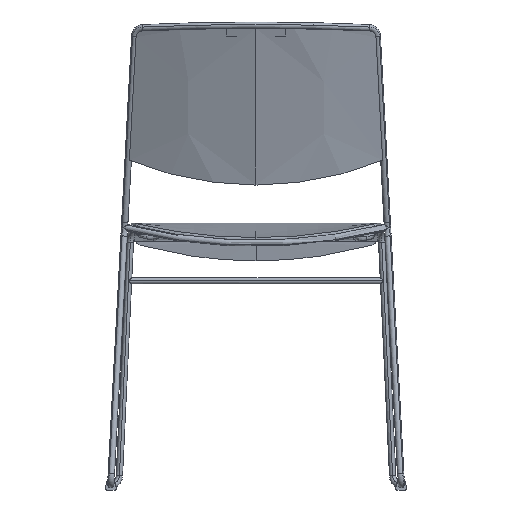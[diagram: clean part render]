
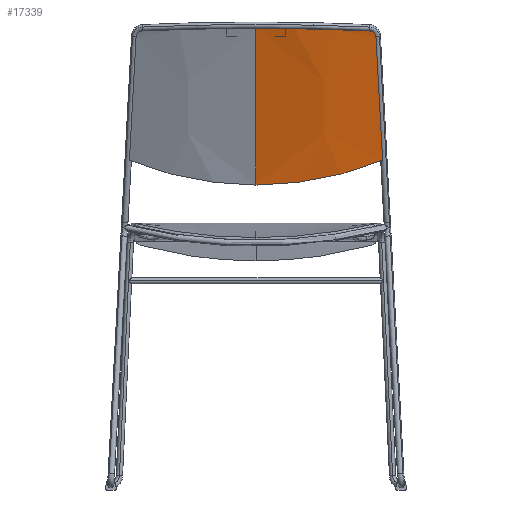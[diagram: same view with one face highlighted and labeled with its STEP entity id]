
A CAD part, left-side view. The second image highlights one B-rep face of the part: STEP entity #17339.
In plain terms, the highlighted free-form (B-spline) face has degree [3, 3] with [5, 4] control points.
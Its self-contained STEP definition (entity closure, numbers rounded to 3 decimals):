
#16070=CARTESIAN_POINT('',(-322.511,0.,
783.374));
#16071=CARTESIAN_POINT('',(-322.511,-33.006,
783.374));
#16072=CARTESIAN_POINT('',(-317.74,-99.016,
782.65));
#16073=CARTESIAN_POINT('',(-303.526,-163.629,
780.491));
#16074=CARTESIAN_POINT('',(-294.133,-195.244,
779.066));
#16079=CARTESIAN_POINT('',(-294.133,-195.244,
779.066));
#16080=CARTESIAN_POINT('',(-293.95,-195.857,
779.038));
#16081=CARTESIAN_POINT('',(-293.568,-197.045,
778.896));
#16082=CARTESIAN_POINT('',(-292.936,-198.734,
778.434));
#16083=CARTESIAN_POINT('',(-292.281,-200.266,
777.767));
#16084=CARTESIAN_POINT('',(-291.599,-201.656,
776.895));
#16085=CARTESIAN_POINT('',(-290.908,-202.88,
775.851));
#16086=CARTESIAN_POINT('',(-290.222,-203.925,
774.659));
#16087=CARTESIAN_POINT('',(-289.538,-204.79,
773.315));
#16088=CARTESIAN_POINT('',(-288.877,-205.452,
771.852));
#16089=CARTESIAN_POINT('',(-288.232,-205.906,
770.248));
#16090=CARTESIAN_POINT('',(-287.829,-206.052,
769.114));
#16091=CARTESIAN_POINT('',(-287.634,-206.084,
768.529));
#16096=CARTESIAN_POINT('',(-287.634,-206.084,
768.529));
#16097=CARTESIAN_POINT('',(-264.101,-209.912,
697.91));
#16098=CARTESIAN_POINT('',(-240.569,-213.728,
627.394));
#16099=CARTESIAN_POINT('',(-217.038,-217.53,
556.982));
#16104=CARTESIAN_POINT('',(-217.038,-217.53,
556.982));
#16105=CARTESIAN_POINT('',(-218.694,-208.774,
553.406));
#16106=CARTESIAN_POINT('',(-221.822,-191.106,
546.704));
#16107=CARTESIAN_POINT('',(-225.948,-164.133,
537.994));
#16108=CARTESIAN_POINT('',(-229.466,-136.844,
530.66));
#16109=CARTESIAN_POINT('',(-232.346,-109.369,
524.696));
#16110=CARTESIAN_POINT('',(-234.561,-81.837,
520.062));
#16111=CARTESIAN_POINT('',(-236.119,-54.36,
516.757));
#16112=CARTESIAN_POINT('',(-237.039,-27.021,
514.79));
#16113=CARTESIAN_POINT('',(-237.239,-8.975,
514.361));
#16114=CARTESIAN_POINT('',(-237.239,0.,
514.361));
#16119=DIRECTION('',(0.302,0.,-0.953));
#16120=VECTOR('',#16119,282.204);
#16121=CARTESIAN_POINT('',(-322.511,0.,
783.374));
#16122=LINE('',#16121,#16120);
#16582=CARTESIAN_POINT('',(-217.038,-217.53,
556.982));
#17145=CARTESIAN_POINT('',(-237.239,0.,
514.361));
#17147=VERTEX_POINT('',#17145);
#17149=VERTEX_POINT('',#16582);
#17154=VERTEX_POINT('',#16079);
#17155=VERTEX_POINT('',#16091);
#17160=CARTESIAN_POINT('',(-322.511,0.,
783.374));
#17161=VERTEX_POINT('',#17160);
#17307=CARTESIAN_POINT('',(-324.202,4.429,
788.752));
#17308=CARTESIAN_POINT('',(-294.641,4.429,
695.494));
#17309=CARTESIAN_POINT('',(-265.08,4.429,
602.237));
#17310=CARTESIAN_POINT('',(-235.519,4.429,
508.979));
#17311=CARTESIAN_POINT('',(-324.463,-35.942,
788.791));
#17312=CARTESIAN_POINT('',(-294.902,-35.942,
695.534));
#17313=CARTESIAN_POINT('',(-265.341,-35.942,
602.276));
#17314=CARTESIAN_POINT('',(-235.78,-35.942,
509.018));
#17315=CARTESIAN_POINT('',(-318.167,-112.747,
787.842));
#17316=CARTESIAN_POINT('',(-288.606,-112.747,
694.584));
#17317=CARTESIAN_POINT('',(-259.045,-112.747,
601.326));
#17318=CARTESIAN_POINT('',(-229.484,-112.747,
508.069));
#17319=CARTESIAN_POINT('',(-299.152,-187.322,
784.974));
#17320=CARTESIAN_POINT('',(-269.591,-187.322,
691.716));
#17321=CARTESIAN_POINT('',(-240.03,-187.322,
598.459));
#17322=CARTESIAN_POINT('',(-210.469,-187.322,
505.201));
#17323=CARTESIAN_POINT('',(-287.396,-221.721,
783.202));
#17324=CARTESIAN_POINT('',(-257.835,-221.721,
689.944));
#17325=CARTESIAN_POINT('',(-228.274,-221.721,
596.686));
#17326=CARTESIAN_POINT('',(-198.713,-221.721,
503.429));
#17327=B_SPLINE_SURFACE_WITH_KNOTS('',3,3,((#17307,#17308,#17309,#17310),
(#17311,#17312,#17313,#17314),(#17315,#17316,#17317,#17318),(#17319,#17320,
#17321,#17322),(#17323,#17324,#17325,#17326)),.UNSPECIFIED.,.F.,.F.,.F.,(4,1,4),
(4,4),(-0.019,0.504,0.975),(
-0.005,0.846),.UNSPECIFIED.);
#17329=ORIENTED_EDGE('',*,*,#17328,.F.);
#17331=ORIENTED_EDGE('',*,*,#17330,.T.);
#17333=ORIENTED_EDGE('',*,*,#17332,.T.);
#17335=ORIENTED_EDGE('',*,*,#17334,.T.);
#17336=ORIENTED_EDGE('',*,*,#17294,.T.);
#17337=EDGE_LOOP('',(#17329,#17331,#17333,#17335,#17336));
#17338=FACE_OUTER_BOUND('',#17337,.F.);
#16075=B_SPLINE_CURVE_WITH_KNOTS('',3,(#16070,#16071,#16072,#16073,#16074),
.UNSPECIFIED.,.F.,.F.,(4,1,4),(0.,0.5,1.),.UNSPECIFIED.);
#16092=B_SPLINE_CURVE_WITH_KNOTS('',3,(#16079,#16080,#16081,#16082,#16083,
#16084,#16085,#16086,#16087,#16088,#16089,#16090,#16091),.UNSPECIFIED.,.F.,.F.,(
4,1,1,1,1,1,1,1,1,1,4),(0.,0.1,0.2,0.3,0.4,0.5,0.6,0.7,0.8,
0.9,1.),.UNSPECIFIED.);
#16100=B_SPLINE_CURVE_WITH_KNOTS('',3,(#16096,#16097,#16098,#16099),
.UNSPECIFIED.,.F.,.F.,(4,4),(0.,1.),.UNSPECIFIED.);
#16115=B_SPLINE_CURVE_WITH_KNOTS('',3,(#16104,#16105,#16106,#16107,#16108,
#16109,#16110,#16111,#16112,#16113,#16114),.UNSPECIFIED.,.F.,.F.,(4,1,1,1,1,1,1,
1,4),(0.,0.125,0.25,0.375,0.5,0.625,0.75,0.875,1.),
.UNSPECIFIED.);
#17294=EDGE_CURVE('',#17149,#17147,#16115,.T.);
#17328=EDGE_CURVE('',#17161,#17147,#16122,.T.);
#17330=EDGE_CURVE('',#17161,#17154,#16075,.T.);
#17332=EDGE_CURVE('',#17154,#17155,#16092,.T.);
#17334=EDGE_CURVE('',#17155,#17149,#16100,.T.);
#17339=ADVANCED_FACE('',(#17338),#17327,.F.);
